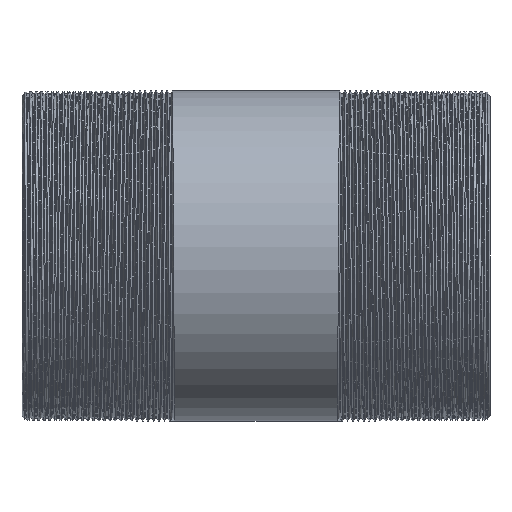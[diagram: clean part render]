
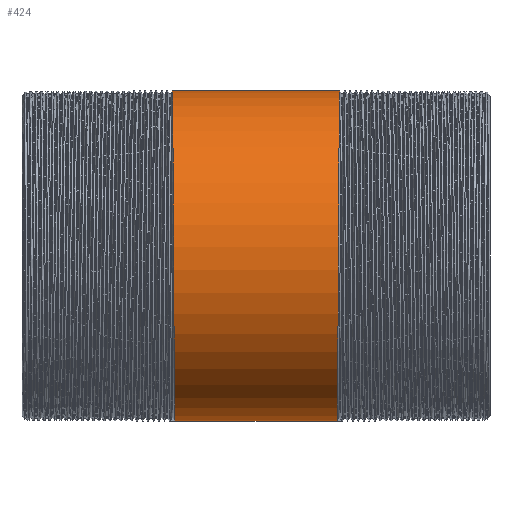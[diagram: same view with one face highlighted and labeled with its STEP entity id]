
A CAD part, front view. The second image highlights one B-rep face of the part: STEP entity #424.
In plain terms, the highlighted cylindrical face has radius 21.2 mm (diameter 42.4 mm), a partial arc.
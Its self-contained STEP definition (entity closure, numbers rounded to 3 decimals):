
#424 = ADVANCED_FACE ( 'NONE', ( #13219 ), #13323, .T. ) ;
#1091 = CARTESIAN_POINT ( 'NONE',  ( -10.446, -12.24, -21.2 ) ) ;
#1180 = VERTEX_POINT ( 'NONE', #9936 ) ;
#1633 = CARTESIAN_POINT ( 'NONE',  ( -10.738, 0., 21.2 ) ) ;
#1707 = DIRECTION ( 'NONE',  ( -1., 0., 0. ) ) ;
#2662 = EDGE_LOOP ( 'NONE', ( #9300, #6481, #13225, #5778 ) ) ;
#3326 = CARTESIAN_POINT ( 'NONE',  ( -149.494, 0., 0. ) ) ;
#3802 = LINE ( 'NONE', #15280, #16334 ) ;
#4274 = CARTESIAN_POINT ( 'NONE',  ( 10.504, -18.36, -10.6 ) ) ;
#4925 = EDGE_CURVE ( 'NONE', #1180, #10337, #19827, .T. ) ;
#5000 =( BOUNDED_CURVE ( )  B_SPLINE_CURVE ( 2, ( #7928, #14471, #4274, #10948, #6208, #11055, #17592 ),
 .UNSPECIFIED., .F., .T. ) 
 B_SPLINE_CURVE_WITH_KNOTS ( ( 3, 2, 2, 3 ),
 ( 0., 0.006, 0.011, 0.017 ),
 .UNSPECIFIED. ) 
 CURVE ( )  GEOMETRIC_REPRESENTATION_ITEM ( )  RATIONAL_B_SPLINE_CURVE ( ( 1., 0.866, 1., 0.866, 1., 0.866, 1. ) ) 
 REPRESENTATION_ITEM ( '' )  );
#5046 = EDGE_CURVE ( 'NONE', #10337, #13310, #20160, .T. ) ;
#5778 = ORIENTED_EDGE ( 'NONE', *, *, #5046, .F. ) ;
#6208 = CARTESIAN_POINT ( 'NONE',  ( 10.621, -18.36, 10.6 ) ) ;
#6481 = ORIENTED_EDGE ( 'NONE', *, *, #17635, .T. ) ;
#7156 = VECTOR ( 'NONE', #12170, 1000. ) ;
#7656 = CARTESIAN_POINT ( 'NONE',  ( -10.621, -18.36, 10.6 ) ) ;
#7928 = CARTESIAN_POINT ( 'NONE',  ( 10.388, 0., -21.2 ) ) ;
#8323 = CARTESIAN_POINT ( 'NONE',  ( -10.388, 0., -21.2 ) ) ;
#8537 = DIRECTION ( 'NONE',  ( -1., 0., 0. ) ) ;
#9273 = CARTESIAN_POINT ( 'NONE',  ( -10.388, 0., -21.2 ) ) ;
#9300 = ORIENTED_EDGE ( 'NONE', *, *, #4925, .F. ) ;
#9936 = CARTESIAN_POINT ( 'NONE',  ( 10.388, 0., -21.2 ) ) ;
#10337 = VERTEX_POINT ( 'NONE', #8323 ) ;
#10948 = CARTESIAN_POINT ( 'NONE',  ( 10.563, -24.48, 0. ) ) ;
#10987 = EDGE_CURVE ( 'NONE', #13291, #13310, #3802, .T. ) ;
#11055 = CARTESIAN_POINT ( 'NONE',  ( 10.679, -12.24, 21.2 ) ) ;
#11612 = DIRECTION ( 'NONE',  ( 0., 0., 1. ) ) ;
#12170 = DIRECTION ( 'NONE',  ( -1., 0., 0. ) ) ;
#13219 = FACE_OUTER_BOUND ( 'NONE', #2662, .T. ) ;
#13225 = ORIENTED_EDGE ( 'NONE', *, *, #10987, .T. ) ;
#13291 = VERTEX_POINT ( 'NONE', #14438 ) ;
#13310 = VERTEX_POINT ( 'NONE', #1633 ) ;
#13323 = CYLINDRICAL_SURFACE ( 'NONE', #17107, 21.2 ) ;
#14214 = CARTESIAN_POINT ( 'NONE',  ( -10.738, 0., 21.2 ) ) ;
#14438 = CARTESIAN_POINT ( 'NONE',  ( 10.738, 0., 21.2 ) ) ;
#14471 = CARTESIAN_POINT ( 'NONE',  ( 10.446, -12.24, -21.2 ) ) ;
#14881 = CARTESIAN_POINT ( 'NONE',  ( -149.494, 0., -21.2 ) ) ;
#15280 = CARTESIAN_POINT ( 'NONE',  ( -149.494, 0., 21.2 ) ) ;
#15816 = CARTESIAN_POINT ( 'NONE',  ( -10.504, -18.36, -10.6 ) ) ;
#16334 = VECTOR ( 'NONE', #8537, 1000. ) ;
#17107 = AXIS2_PLACEMENT_3D ( 'NONE', #3326, #1707, #11612 ) ;
#17331 = CARTESIAN_POINT ( 'NONE',  ( -10.679, -12.24, 21.2 ) ) ;
#17592 = CARTESIAN_POINT ( 'NONE',  ( 10.738, 0., 21.2 ) ) ;
#17635 = EDGE_CURVE ( 'NONE', #1180, #13291, #5000, .T. ) ;
#19259 = CARTESIAN_POINT ( 'NONE',  ( -10.563, -24.48, 0. ) ) ;
#19827 = LINE ( 'NONE', #14881, #7156 ) ;
#20160 =( BOUNDED_CURVE ( )  B_SPLINE_CURVE ( 2, ( #9273, #1091, #15816, #19259, #7656, #17331, #14214 ),
 .UNSPECIFIED., .F., .F. ) 
 B_SPLINE_CURVE_WITH_KNOTS ( ( 3, 2, 2, 3 ),
 ( 0., 0.006, 0.011, 0.017 ),
 .UNSPECIFIED. ) 
 CURVE ( )  GEOMETRIC_REPRESENTATION_ITEM ( )  RATIONAL_B_SPLINE_CURVE ( ( 1., 0.866, 1., 0.866, 1., 0.866, 1. ) ) 
 REPRESENTATION_ITEM ( '' )  );
